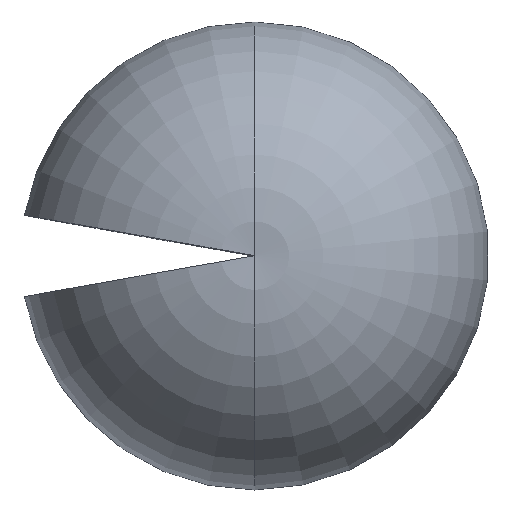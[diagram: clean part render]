
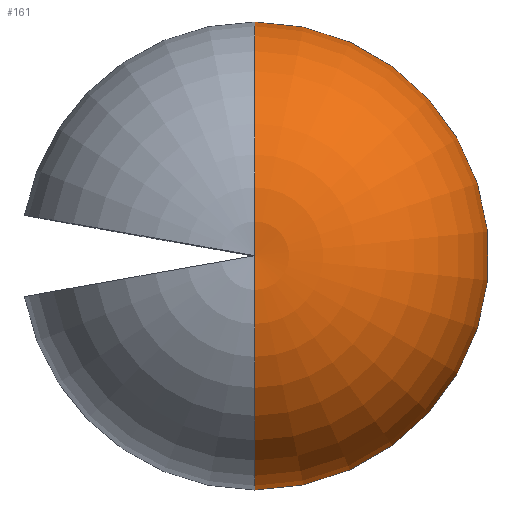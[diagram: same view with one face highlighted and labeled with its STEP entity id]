
A CAD part, top view. The second image highlights one B-rep face of the part: STEP entity #161.
In plain terms, the highlighted toroidal (fillet/blend) face has major radius 320.026 mm and minor radius 2279.87 mm.
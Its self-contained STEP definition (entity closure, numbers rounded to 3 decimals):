
#5 = EDGE_CURVE ( 'NONE', #509, #321, #237, .T. ) ;
#15 = DIRECTION ( 'NONE',  ( 1., 0., 0. ) ) ;
#23 = CARTESIAN_POINT ( 'NONE',  ( 0., 0., -1197.563 ) ) ;
#32 = FACE_OUTER_BOUND ( 'NONE', #91, .T. ) ;
#43 = DIRECTION ( 'NONE',  ( -1., 0., 0. ) ) ;
#49 = CARTESIAN_POINT ( 'NONE',  ( 0., -1627.707, -1197.563 ) ) ;
#57 = DIRECTION ( 'NONE',  ( 0., -1., 0. ) ) ;
#91 = EDGE_LOOP ( 'NONE', ( #324, #130, #411 ) ) ;
#92 = DIRECTION ( 'NONE',  ( 0., 0., -1. ) ) ;
#111 = AXIS2_PLACEMENT_3D ( 'NONE', #409, #15, #92 ) ;
#120 = DIRECTION ( 'NONE',  ( 0., 0., 1. ) ) ;
#130 = ORIENTED_EDGE ( 'NONE', *, *, #292, .T. ) ;
#161 = ADVANCED_FACE ( 'NONE', ( #32 ), #225, .T. ) ;
#175 = CIRCLE ( 'NONE', #111, 2279.873 ) ;
#201 = EDGE_CURVE ( 'NONE', #509, #528, #400, .T. ) ;
#210 = AXIS2_PLACEMENT_3D ( 'NONE', #270, #43, #367 ) ;
#225 = TOROIDAL_SURFACE ( 'NONE', #472, 320.025, 2279.873 ) ;
#237 = CIRCLE ( 'NONE', #501, 1627.707 ) ;
#239 = CARTESIAN_POINT ( 'NONE',  ( 0., 0., 2927.301 ) ) ;
#270 = CARTESIAN_POINT ( 'NONE',  ( 0., -320.025, 670. ) ) ;
#292 = EDGE_CURVE ( 'NONE', #321, #528, #175, .T. ) ;
#317 = DIRECTION ( 'NONE',  ( 0., -1., 0. ) ) ;
#321 = VERTEX_POINT ( 'NONE', #500 ) ;
#324 = ORIENTED_EDGE ( 'NONE', *, *, #5, .T. ) ;
#367 = DIRECTION ( 'NONE',  ( 0., -1., 0. ) ) ;
#400 = CIRCLE ( 'NONE', #210, 2279.873 ) ;
#409 = CARTESIAN_POINT ( 'NONE',  ( 0., 320.025, 670. ) ) ;
#411 = ORIENTED_EDGE ( 'NONE', *, *, #201, .F. ) ;
#420 = DIRECTION ( 'NONE',  ( 0., 0., 1. ) ) ;
#472 = AXIS2_PLACEMENT_3D ( 'NONE', #487, #120, #317 ) ;
#487 = CARTESIAN_POINT ( 'NONE',  ( 0., 0., 670. ) ) ;
#500 = CARTESIAN_POINT ( 'NONE',  ( 0., 1627.707, -1197.563 ) ) ;
#501 = AXIS2_PLACEMENT_3D ( 'NONE', #23, #420, #57 ) ;
#509 = VERTEX_POINT ( 'NONE', #49 ) ;
#528 = VERTEX_POINT ( 'NONE', #239 ) ;
